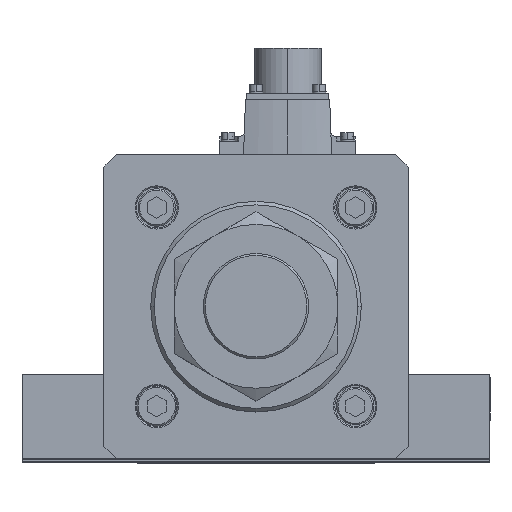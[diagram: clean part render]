
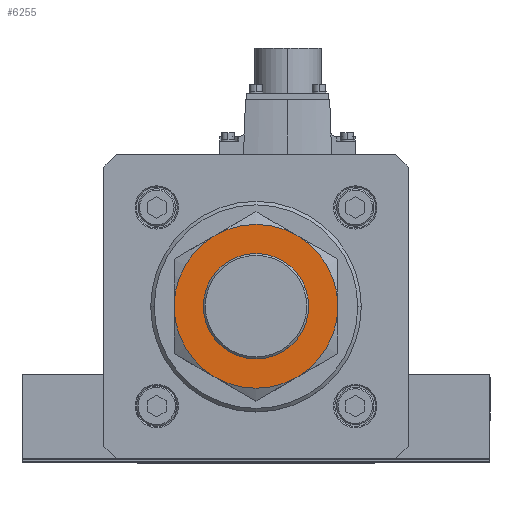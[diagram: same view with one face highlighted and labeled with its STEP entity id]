
A CAD part, top view. The second image highlights one B-rep face of the part: STEP entity #6255.
In plain terms, the highlighted planar face has unit normal (0, 0, 1).
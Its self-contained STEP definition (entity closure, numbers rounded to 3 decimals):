
#118 = PLANE ( 'NONE',  #20085 ) ;
#122 = EDGE_CURVE ( 'NONE', #10552, #731, #26009, .T. ) ;
#731 = VERTEX_POINT ( 'NONE', #22776 ) ;
#1306 = DIRECTION ( 'NONE',  ( 0., 0., -1. ) ) ;
#1420 = DIRECTION ( 'NONE',  ( -1., 0., 0. ) ) ;
#2103 = EDGE_CURVE ( 'NONE', #19780, #35260, #33074, .T. ) ;
#2585 = CIRCLE ( 'NONE', #19692, 22.5 ) ;
#3284 = VERTEX_POINT ( 'NONE', #4213 ) ;
#3990 = VERTEX_POINT ( 'NONE', #24045 ) ;
#4138 = CARTESIAN_POINT ( 'NONE',  ( 0., 0., 27. ) ) ;
#4213 = CARTESIAN_POINT ( 'NONE',  ( -22.5, 0., 27. ) ) ;
#4431 = AXIS2_PLACEMENT_3D ( 'NONE', #15259, #35928, #18237 ) ;
#5001 = DIRECTION ( 'NONE',  ( 0., 0., -1. ) ) ;
#5401 = ORIENTED_EDGE ( 'NONE', *, *, #122, .F. ) ;
#5435 = AXIS2_PLACEMENT_3D ( 'NONE', #8322, #38166, #23562 ) ;
#5785 = EDGE_CURVE ( 'NONE', #3284, #32833, #36989, .T. ) ;
#5844 = CARTESIAN_POINT ( 'NONE',  ( -17.5, 30.311, 27. ) ) ;
#6255 = ADVANCED_FACE ( 'NONE', ( #6453, #30441 ), #118, .T. ) ;
#6453 = FACE_OUTER_BOUND ( 'NONE', #22736, .T. ) ;
#6649 = DIRECTION ( 'NONE',  ( -1., 0., 0. ) ) ;
#7243 = DIRECTION ( 'NONE',  ( 0., 0., -1. ) ) ;
#7878 = ORIENTED_EDGE ( 'NONE', *, *, #23771, .F. ) ;
#8322 = CARTESIAN_POINT ( 'NONE',  ( 0., 0., 27. ) ) ;
#9110 = CARTESIAN_POINT ( 'NONE',  ( 22.5, 0., 27. ) ) ;
#9821 = DIRECTION ( 'NONE',  ( -1., 0., 0. ) ) ;
#9829 = EDGE_CURVE ( 'NONE', #32833, #3284, #2585, .T. ) ;
#10552 = VERTEX_POINT ( 'NONE', #27092 ) ;
#11098 = DIRECTION ( 'NONE',  ( -1., 0., 0. ) ) ;
#11550 = DIRECTION ( 'NONE',  ( 0., 0., 1. ) ) ;
#12661 = CARTESIAN_POINT ( 'NONE',  ( -35., 0., 27. ) ) ;
#12956 = DIRECTION ( 'NONE',  ( 1., 0., 0. ) ) ;
#13216 = CARTESIAN_POINT ( 'NONE',  ( 0., 0., 27. ) ) ;
#15202 = ORIENTED_EDGE ( 'NONE', *, *, #9829, .F. ) ;
#15259 = CARTESIAN_POINT ( 'NONE',  ( 0., 0., 27. ) ) ;
#16031 = EDGE_CURVE ( 'NONE', #35260, #27949, #30323, .T. ) ;
#17373 = CARTESIAN_POINT ( 'NONE',  ( 0., 0., 27. ) ) ;
#17727 = AXIS2_PLACEMENT_3D ( 'NONE', #26198, #29156, #35120 ) ;
#18237 = DIRECTION ( 'NONE',  ( 1., 0., 0. ) ) ;
#18315 = ORIENTED_EDGE ( 'NONE', *, *, #30591, .F. ) ;
#18368 = AXIS2_PLACEMENT_3D ( 'NONE', #26073, #5001, #11098 ) ;
#19692 = AXIS2_PLACEMENT_3D ( 'NONE', #17373, #11550, #35195 ) ;
#19780 = VERTEX_POINT ( 'NONE', #36843 ) ;
#20085 = AXIS2_PLACEMENT_3D ( 'NONE', #13216, #22111, #12956 ) ;
#20276 = EDGE_LOOP ( 'NONE', ( #38288, #15202 ) ) ;
#21819 = CARTESIAN_POINT ( 'NONE',  ( 0., 0., 27. ) ) ;
#22111 = DIRECTION ( 'NONE',  ( 0., 0., 1. ) ) ;
#22215 = AXIS2_PLACEMENT_3D ( 'NONE', #33142, #30508, #6649 ) ;
#22736 = EDGE_LOOP ( 'NONE', ( #7878, #5401, #18315, #31028, #23113, #30520 ) ) ;
#22776 = CARTESIAN_POINT ( 'NONE',  ( 35., 0., 27. ) ) ;
#23113 = ORIENTED_EDGE ( 'NONE', *, *, #2103, .F. ) ;
#23562 = DIRECTION ( 'NONE',  ( -1., 0., 0. ) ) ;
#23771 = EDGE_CURVE ( 'NONE', #731, #3990, #24684, .T. ) ;
#23996 = CIRCLE ( 'NONE', #5435, 35. ) ;
#24045 = CARTESIAN_POINT ( 'NONE',  ( 17.5, -30.311, 27. ) ) ;
#24684 = CIRCLE ( 'NONE', #24774, 35. ) ;
#24774 = AXIS2_PLACEMENT_3D ( 'NONE', #4138, #1306, #9821 ) ;
#25255 = EDGE_CURVE ( 'NONE', #3990, #19780, #29430, .T. ) ;
#26009 = CIRCLE ( 'NONE', #17727, 35. ) ;
#26073 = CARTESIAN_POINT ( 'NONE',  ( 0., 0., 27. ) ) ;
#26198 = CARTESIAN_POINT ( 'NONE',  ( 0., 0., 27. ) ) ;
#27031 = AXIS2_PLACEMENT_3D ( 'NONE', #21819, #7243, #1420 ) ;
#27092 = CARTESIAN_POINT ( 'NONE',  ( 17.5, 30.311, 27. ) ) ;
#27949 = VERTEX_POINT ( 'NONE', #5844 ) ;
#29156 = DIRECTION ( 'NONE',  ( 0., 0., -1. ) ) ;
#29430 = CIRCLE ( 'NONE', #18368, 35. ) ;
#30323 = CIRCLE ( 'NONE', #27031, 35. ) ;
#30441 = FACE_BOUND ( 'NONE', #20276, .T. ) ;
#30508 = DIRECTION ( 'NONE',  ( 0., 0., -1. ) ) ;
#30520 = ORIENTED_EDGE ( 'NONE', *, *, #25255, .F. ) ;
#30591 = EDGE_CURVE ( 'NONE', #27949, #10552, #23996, .T. ) ;
#31028 = ORIENTED_EDGE ( 'NONE', *, *, #16031, .F. ) ;
#32833 = VERTEX_POINT ( 'NONE', #9110 ) ;
#33074 = CIRCLE ( 'NONE', #22215, 35. ) ;
#33142 = CARTESIAN_POINT ( 'NONE',  ( 0., 0., 27. ) ) ;
#35120 = DIRECTION ( 'NONE',  ( -1., 0., 0. ) ) ;
#35195 = DIRECTION ( 'NONE',  ( 1., 0., 0. ) ) ;
#35260 = VERTEX_POINT ( 'NONE', #12661 ) ;
#35928 = DIRECTION ( 'NONE',  ( 0., 0., 1. ) ) ;
#36843 = CARTESIAN_POINT ( 'NONE',  ( -17.5, -30.311, 27. ) ) ;
#36989 = CIRCLE ( 'NONE', #4431, 22.5 ) ;
#38166 = DIRECTION ( 'NONE',  ( 0., 0., -1. ) ) ;
#38288 = ORIENTED_EDGE ( 'NONE', *, *, #5785, .F. ) ;
